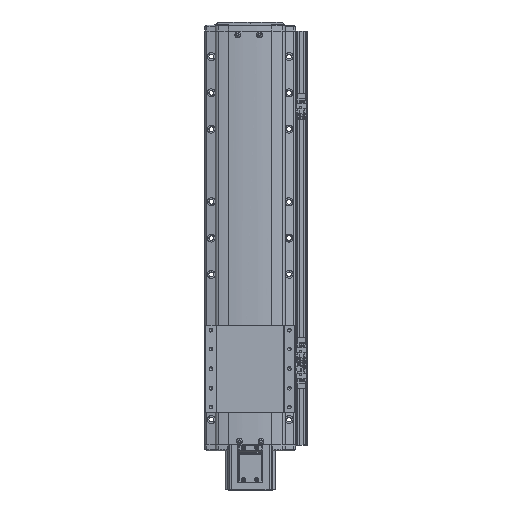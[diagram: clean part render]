
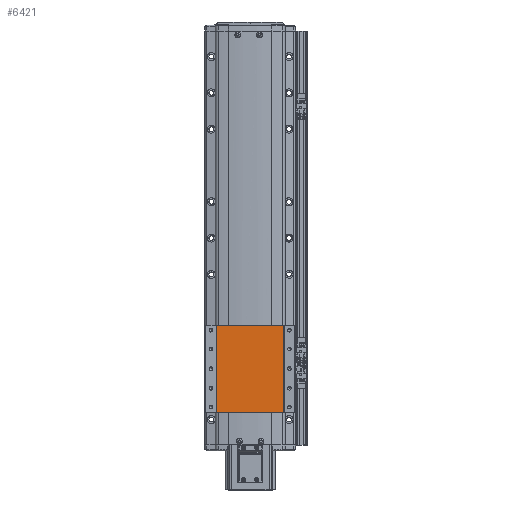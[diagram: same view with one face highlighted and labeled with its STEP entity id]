
A CAD part, top view. The second image highlights one B-rep face of the part: STEP entity #6421.
In plain terms, the highlighted planar face has unit normal (0, 0, 1).
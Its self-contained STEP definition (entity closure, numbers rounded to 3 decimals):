
#6421=ADVANCED_FACE('',(#15214),#15215,.F.);
#15214=FACE_OUTER_BOUND('',#27872,.T.);
#15215=PLANE('',#27873);
#27872=EDGE_LOOP('',(#47433,#47434,#47435,#47436));
#27873=AXIS2_PLACEMENT_3D('',#47437,#47438,#47439);
#47433=ORIENTED_EDGE('',*,*,#75931,.F.);
#47434=ORIENTED_EDGE('',*,*,#75932,.F.);
#47435=ORIENTED_EDGE('',*,*,#74551,.F.);
#47436=ORIENTED_EDGE('',*,*,#74895,.T.);
#47437=CARTESIAN_POINT('',(-300.,-107.778,36.5));
#47438=DIRECTION('',(0.,0.,-1.0));
#47439=DIRECTION('',(-1.0,0.,0.));
#74551=EDGE_CURVE('',#90763,#90765,#90766,.T.);
#74895=EDGE_CURVE('',#90763,#91312,#91315,.T.);
#75931=EDGE_CURVE('',#92882,#91312,#92883,.T.);
#75932=EDGE_CURVE('',#90765,#92882,#92884,.T.);
#90763=VERTEX_POINT('',#112652);
#90765=VERTEX_POINT('',#112654);
#90766=LINE('',#112655,#112656);
#91312=VERTEX_POINT('',#113427);
#91315=LINE('',#113430,#113431);
#92882=VERTEX_POINT('',#115702);
#92883=LINE('',#115703,#115704);
#92884=LINE('',#115705,#115706);
#112652=CARTESIAN_POINT('',(-253.624,-107.778,36.5));
#112654=CARTESIAN_POINT('',(-346.376,-107.778,36.5));
#112655=CARTESIAN_POINT('',(-253.624,-107.778,36.5));
#112656=VECTOR('',#134970,10.0);
#113427=CARTESIAN_POINT('',(-253.624,12.222,36.5));
#113430=CARTESIAN_POINT('',(-253.624,-107.778,36.5));
#113431=VECTOR('',#135452,10.0);
#115702=CARTESIAN_POINT('',(-346.376,12.222,36.5));
#115703=CARTESIAN_POINT('',(-253.624,12.222,36.5));
#115704=VECTOR('',#136780,10.0);
#115705=CARTESIAN_POINT('',(-346.376,-107.778,36.5));
#115706=VECTOR('',#136781,10.0);
#134970=DIRECTION('',(-1.0,0.,0.));
#135452=DIRECTION('',(0.,1.0,0.));
#136780=DIRECTION('',(1.0,0.,0.));
#136781=DIRECTION('',(0.,1.0,0.));
